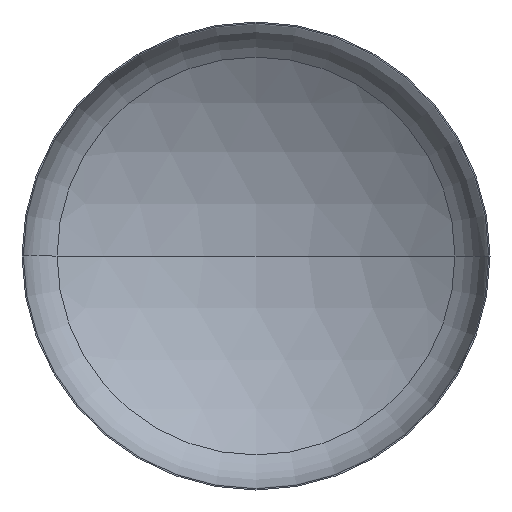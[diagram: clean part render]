
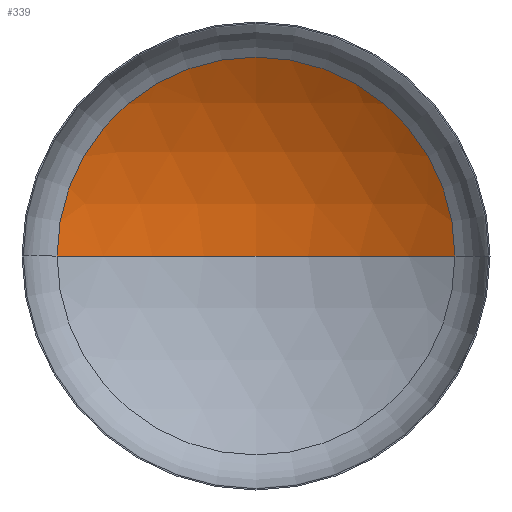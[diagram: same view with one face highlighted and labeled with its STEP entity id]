
A CAD part, front view. The second image highlights one B-rep face of the part: STEP entity #339.
In plain terms, the highlighted spherical face has radius 4800 mm.
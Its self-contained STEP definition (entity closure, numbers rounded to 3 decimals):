
#13 = ORIENTED_EDGE ( 'NONE', *, *, #250, .T. ) ;
#19 = ORIENTED_EDGE ( 'NONE', *, *, #254, .T. ) ;
#27 = VERTEX_POINT ( 'NONE', #156 ) ;
#54 = ORIENTED_EDGE ( 'NONE', *, *, #258, .F. ) ;
#69 = DIRECTION ( 'NONE',  ( 1., 0., 0. ) ) ;
#73 = DIRECTION ( 'NONE',  ( 0., -1., 0. ) ) ;
#76 = CARTESIAN_POINT ( 'NONE',  ( 0., 838.613, 0. ) ) ;
#78 = AXIS2_PLACEMENT_3D ( 'NONE', #226, #113, #206 ) ;
#79 = VERTEX_POINT ( 'NONE', #208 ) ;
#90 = CARTESIAN_POINT ( 'NONE',  ( 0., -3227.704, 0. ) ) ;
#101 = VERTEX_POINT ( 'NONE', #221 ) ;
#103 = EDGE_LOOP ( 'NONE', ( #54, #19, #13 ) ) ;
#113 = DIRECTION ( 'NONE',  ( 0., 0., -1. ) ) ;
#134 = DIRECTION ( 'NONE',  ( -1., 0., 0. ) ) ;
#145 = DIRECTION ( 'NONE',  ( 0., 0., -1. ) ) ;
#154 = AXIS2_PLACEMENT_3D ( 'NONE', #159, #170, #171 ) ;
#156 = CARTESIAN_POINT ( 'NONE',  ( -2550.503, 838.613, 0. ) ) ;
#159 = CARTESIAN_POINT ( 'NONE',  ( 0., -3227.704, 0. ) ) ;
#162 = AXIS2_PLACEMENT_3D ( 'NONE', #90, #145, #134 ) ;
#164 = AXIS2_PLACEMENT_3D ( 'NONE', #76, #73, #69 ) ;
#169 = CIRCLE ( 'NONE', #162, 4800. ) ;
#170 = DIRECTION ( 'NONE',  ( 0., 0., 1. ) ) ;
#171 = DIRECTION ( 'NONE',  ( 1., 0., 0. ) ) ;
#206 = DIRECTION ( 'NONE',  ( -1., 0., 0. ) ) ;
#208 = CARTESIAN_POINT ( 'NONE',  ( 0., 1572.296, 0. ) ) ;
#212 = FACE_OUTER_BOUND ( 'NONE', #103, .T. ) ;
#221 = CARTESIAN_POINT ( 'NONE',  ( 2550.503, 838.613, 0. ) ) ;
#226 = CARTESIAN_POINT ( 'NONE',  ( 0., -3227.704, 0. ) ) ;
#248 = CIRCLE ( 'NONE', #164, 2550.503 ) ;
#250 = EDGE_CURVE ( 'NONE', #101, #27, #248, .T. ) ;
#254 = EDGE_CURVE ( 'NONE', #79, #101, #169, .T. ) ;
#258 = EDGE_CURVE ( 'NONE', #79, #27, #366, .T. ) ;
#293 = SPHERICAL_SURFACE ( 'NONE', #78, 4800. ) ;
#339 = ADVANCED_FACE ( 'NONE', ( #212 ), #293, .F. ) ;
#366 = CIRCLE ( 'NONE', #154, 4800. ) ;
